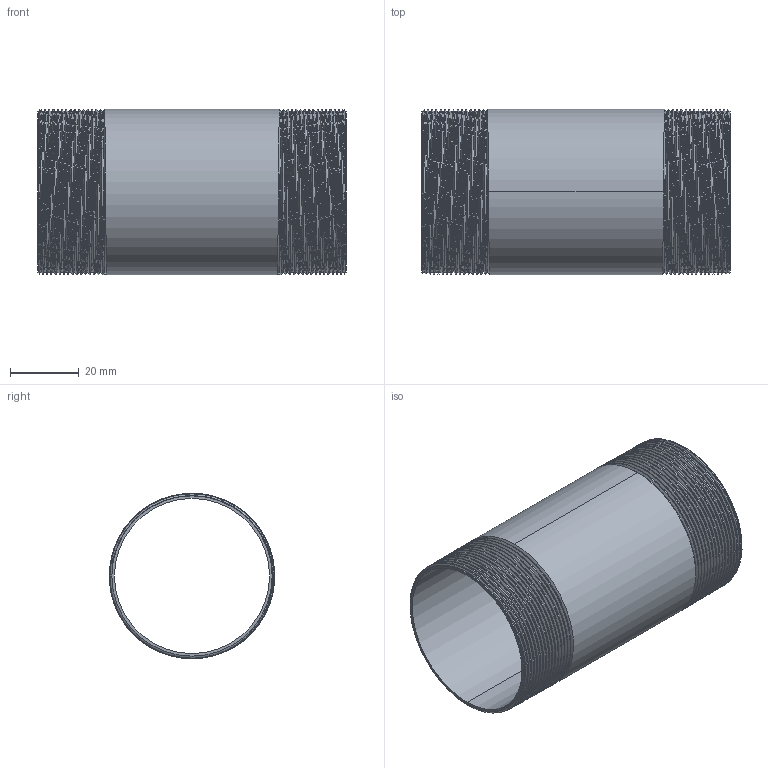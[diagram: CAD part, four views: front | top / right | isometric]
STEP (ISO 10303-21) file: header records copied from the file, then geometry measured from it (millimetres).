
FILE_DESCRIPTION (( 'STEP AP203' ), '1' );
FILE_NAME ('3D_R210_1 1-2x90_17185759.STEP', '2024-08-16T11:32:25', ( '' ), ( '' ), 'SwSTEP 2.0', 'SolidWorks 2024', '' );
FILE_SCHEMA (( 'CONFIG_CONTROL_DESIGN' ));
Length unit declared in the file: millimetre
Products named in the file (1): 3D_R210_1 1-2x90_17185759
Bounding box: 90 x 48.29 x 48.3 mm (x, y, z)
Volume: 17373.3 mm3; surface area: 29779.4 mm2
Topology: 1 solids, 1 shells, 82 faces, 232 edges, 152 vertices
Faces by surface type: cone 68, bspline 6, cylinder 4, plane 4
Entity records: 14349 total; most frequent: CARTESIAN_POINT 12447, ORIENTED_EDGE 464, DIRECTION 256, EDGE_CURVE 232, VERTEX_POINT 152, B_SPLINE_CURVE_WITH_KNOTS 134, AXIS2_PLACEMENT_3D 89, EDGE_LOOP 84
